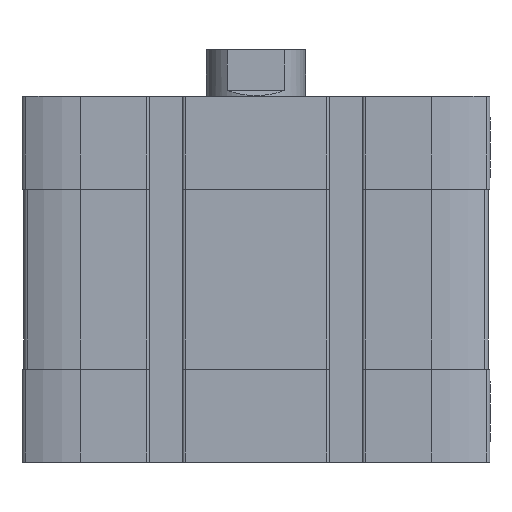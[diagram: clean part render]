
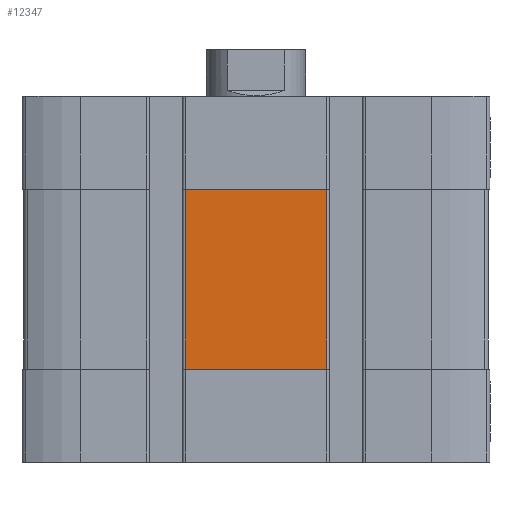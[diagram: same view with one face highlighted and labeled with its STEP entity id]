
A CAD part, front view. The second image highlights one B-rep face of the part: STEP entity #12347.
In plain terms, the highlighted planar face has unit normal (0, -1, 0).
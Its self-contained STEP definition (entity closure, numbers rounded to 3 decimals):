
#286 = EDGE_LOOP ( 'NONE', ( #7745, #3530, #12188, #8104 ) ) ;
#709 = VECTOR ( 'NONE', #8414, 1000. ) ;
#739 = DIRECTION ( 'NONE',  ( 0., 0., -1. ) ) ;
#2304 = EDGE_CURVE ( 'NONE', #15043, #10369, #4139, .T. ) ;
#3530 = ORIENTED_EDGE ( 'NONE', *, *, #12224, .T. ) ;
#4139 = LINE ( 'NONE', #5893, #10085 ) ;
#4294 = CARTESIAN_POINT ( 'NONE',  ( -11.4, -37.5, -44. ) ) ;
#5069 = EDGE_CURVE ( 'NONE', #7033, #14846, #10570, .T. ) ;
#5580 = DIRECTION ( 'NONE',  ( 1., 0., 0. ) ) ;
#5893 = CARTESIAN_POINT ( 'NONE',  ( -11.4, -37.5, -44. ) ) ;
#7033 = VERTEX_POINT ( 'NONE', #10023 ) ;
#7093 = CARTESIAN_POINT ( 'NONE',  ( -11.4, -37.5, -44. ) ) ;
#7581 = CARTESIAN_POINT ( 'NONE',  ( 11.4, -37.5, -44. ) ) ;
#7745 = ORIENTED_EDGE ( 'NONE', *, *, #2304, .T. ) ;
#7882 = DIRECTION ( 'NONE',  ( 0., -1., 0. ) ) ;
#8104 = ORIENTED_EDGE ( 'NONE', *, *, #13871, .T. ) ;
#8414 = DIRECTION ( 'NONE',  ( -1., 0., 0. ) ) ;
#8999 = VECTOR ( 'NONE', #14377, 1000. ) ;
#9697 = CARTESIAN_POINT ( 'NONE',  ( -11.4, -37.5, -44. ) ) ;
#9725 = LINE ( 'NONE', #9697, #8999 ) ;
#9947 = DIRECTION ( 'NONE',  ( 0., 0., 1. ) ) ;
#10023 = CARTESIAN_POINT ( 'NONE',  ( 11.4, -37.5, -15. ) ) ;
#10085 = VECTOR ( 'NONE', #5580, 1000. ) ;
#10369 = VERTEX_POINT ( 'NONE', #12656 ) ;
#10371 = CARTESIAN_POINT ( 'NONE',  ( -11.4, -37.5, -15. ) ) ;
#10570 = LINE ( 'NONE', #14269, #709 ) ;
#10915 = AXIS2_PLACEMENT_3D ( 'NONE', #4294, #7882, #739 ) ;
#12145 = VECTOR ( 'NONE', #9947, 1000. ) ;
#12188 = ORIENTED_EDGE ( 'NONE', *, *, #5069, .T. ) ;
#12224 = EDGE_CURVE ( 'NONE', #10369, #7033, #15165, .T. ) ;
#12347 = ADVANCED_FACE ( 'NONE', ( #13399 ), #13702, .T. ) ;
#12656 = CARTESIAN_POINT ( 'NONE',  ( 11.4, -37.5, -44. ) ) ;
#13399 = FACE_OUTER_BOUND ( 'NONE', #286, .T. ) ;
#13702 = PLANE ( 'NONE',  #10915 ) ;
#13871 = EDGE_CURVE ( 'NONE', #14846, #15043, #9725, .T. ) ;
#14269 = CARTESIAN_POINT ( 'NONE',  ( 0., -37.5, -15. ) ) ;
#14377 = DIRECTION ( 'NONE',  ( 0., 0., -1. ) ) ;
#14846 = VERTEX_POINT ( 'NONE', #10371 ) ;
#15043 = VERTEX_POINT ( 'NONE', #7093 ) ;
#15165 = LINE ( 'NONE', #7581, #12145 ) ;
